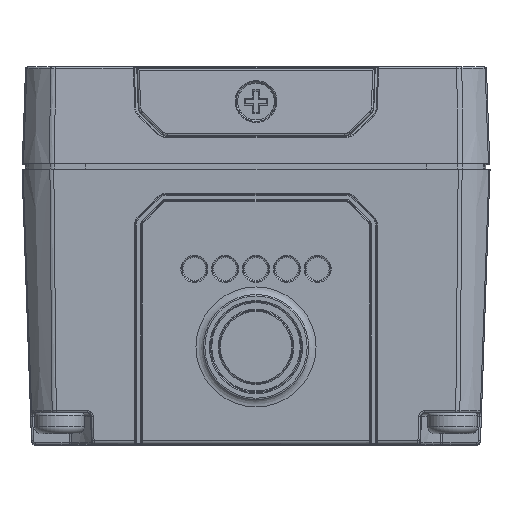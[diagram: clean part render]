
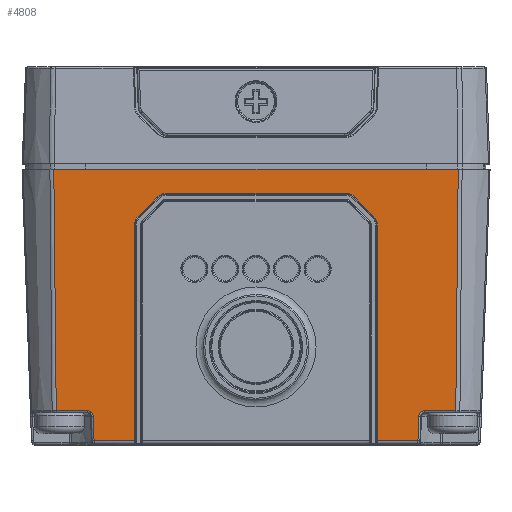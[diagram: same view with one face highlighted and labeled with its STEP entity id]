
A CAD part, top view. The second image highlights one B-rep face of the part: STEP entity #4808.
In plain terms, the highlighted planar face has unit normal (0, -0.035, 0.999).
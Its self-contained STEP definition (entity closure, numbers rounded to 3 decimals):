
#887=ELLIPSE('',#19678,1.301,1.3);
#888=ELLIPSE('',#19679,1.301,1.3);
#889=ELLIPSE('',#19680,1.301,1.3);
#890=ELLIPSE('',#19681,1.301,1.3);
#891=ELLIPSE('',#19682,0.6,0.6);
#892=ELLIPSE('',#19683,0.6,0.6);
#1434=FACE_OUTER_BOUND('',#7227,.T.);
#2535=LINE('',#31598,#3678);
#2536=LINE('',#31601,#3679);
#2537=LINE('',#31605,#3680);
#2538=LINE('',#31609,#3681);
#2539=LINE('',#31613,#3682);
#2540=LINE('',#31617,#3683);
#2541=LINE('',#31619,#3684);
#2542=LINE('',#31621,#3685);
#2543=LINE('',#31625,#3686);
#2544=LINE('',#31638,#3687);
#2545=LINE('',#31651,#3688);
#2546=LINE('',#31655,#3689);
#3678=VECTOR('',#23244,1.);
#3679=VECTOR('',#23245,1.);
#3680=VECTOR('',#23248,1.);
#3681=VECTOR('',#23251,1.);
#3682=VECTOR('',#23254,1.);
#3683=VECTOR('',#23257,1.);
#3684=VECTOR('',#23258,1.);
#3685=VECTOR('',#23259,1.);
#3686=VECTOR('',#23262,1.);
#3687=VECTOR('',#23263,1.);
#3688=VECTOR('',#23264,1.);
#3689=VECTOR('',#23267,1.);
#4808=ADVANCED_FACE('',(#1434),#5663,.F.);
#5663=PLANE('',#19684);
#6062=B_SPLINE_CURVE_WITH_KNOTS('',3,(#31627,#31628,#31629,#31630,#31631,
#31632,#31633,#31634,#31635,#31636),.UNSPECIFIED.,.F.,.F.,(4,3,3,4),(0.,
0.44,0.92,1.),.UNSPECIFIED.);
#6063=B_SPLINE_CURVE_WITH_KNOTS('',3,(#31640,#31641,#31642,#31643,#31644,
#31645,#31646,#31647,#31648,#31649),.UNSPECIFIED.,.F.,.F.,(4,3,3,4),(0.,
0.502,0.564,1.),.UNSPECIFIED.);
#7227=EDGE_LOOP('',(#10328,#10329,#10330,#10331,#10332,#10333,#10334,#10335,
#10336,#10337,#10338,#10339,#10340,#10341,#10342,#10343,#10344,#10345,#10346,
#10347));
#10328=ORIENTED_EDGE('',*,*,#16297,.T.);
#10329=ORIENTED_EDGE('',*,*,#16298,.T.);
#10330=ORIENTED_EDGE('',*,*,#16299,.T.);
#10331=ORIENTED_EDGE('',*,*,#16300,.T.);
#10332=ORIENTED_EDGE('',*,*,#16301,.T.);
#10333=ORIENTED_EDGE('',*,*,#16302,.T.);
#10334=ORIENTED_EDGE('',*,*,#16303,.T.);
#10335=ORIENTED_EDGE('',*,*,#16304,.T.);
#10336=ORIENTED_EDGE('',*,*,#16305,.T.);
#10337=ORIENTED_EDGE('',*,*,#16306,.T.);
#10338=ORIENTED_EDGE('',*,*,#16307,.T.);
#10339=ORIENTED_EDGE('',*,*,#16308,.T.);
#10340=ORIENTED_EDGE('',*,*,#16309,.T.);
#10341=ORIENTED_EDGE('',*,*,#16310,.T.);
#10342=ORIENTED_EDGE('',*,*,#16311,.T.);
#10343=ORIENTED_EDGE('',*,*,#16312,.F.);
#10344=ORIENTED_EDGE('',*,*,#16313,.T.);
#10345=ORIENTED_EDGE('',*,*,#16314,.T.);
#10346=ORIENTED_EDGE('',*,*,#16315,.T.);
#10347=ORIENTED_EDGE('',*,*,#16316,.T.);
#14175=VERTEX_POINT('',#31599);
#14176=VERTEX_POINT('',#31600);
#14177=VERTEX_POINT('',#31602);
#14178=VERTEX_POINT('',#31604);
#14179=VERTEX_POINT('',#31606);
#14180=VERTEX_POINT('',#31608);
#14181=VERTEX_POINT('',#31610);
#14182=VERTEX_POINT('',#31612);
#14183=VERTEX_POINT('',#31614);
#14184=VERTEX_POINT('',#31616);
#14185=VERTEX_POINT('',#31618);
#14186=VERTEX_POINT('',#31620);
#14187=VERTEX_POINT('',#31622);
#14188=VERTEX_POINT('',#31624);
#14189=VERTEX_POINT('',#31626);
#14190=VERTEX_POINT('',#31637);
#14191=VERTEX_POINT('',#31639);
#14192=VERTEX_POINT('',#31650);
#14193=VERTEX_POINT('',#31652);
#14194=VERTEX_POINT('',#31654);
#16297=EDGE_CURVE('',#14175,#14176,#2535,.T.);
#16298=EDGE_CURVE('',#14176,#14177,#2536,.T.);
#16299=EDGE_CURVE('',#14177,#14178,#887,.T.);
#16300=EDGE_CURVE('',#14178,#14179,#2537,.T.);
#16301=EDGE_CURVE('',#14179,#14180,#888,.T.);
#16302=EDGE_CURVE('',#14180,#14181,#2538,.T.);
#16303=EDGE_CURVE('',#14181,#14182,#889,.T.);
#16304=EDGE_CURVE('',#14182,#14183,#2539,.T.);
#16305=EDGE_CURVE('',#14183,#14184,#890,.T.);
#16306=EDGE_CURVE('',#14184,#14185,#2540,.T.);
#16307=EDGE_CURVE('',#14185,#14186,#2541,.T.);
#16308=EDGE_CURVE('',#14186,#14187,#2542,.T.);
#16309=EDGE_CURVE('',#14187,#14188,#891,.T.);
#16310=EDGE_CURVE('',#14188,#14189,#2543,.T.);
#16311=EDGE_CURVE('',#14189,#14190,#6062,.T.);
#16312=EDGE_CURVE('',#14191,#14190,#2544,.T.);
#16313=EDGE_CURVE('',#14191,#14192,#6063,.T.);
#16314=EDGE_CURVE('',#14192,#14193,#2545,.T.);
#16315=EDGE_CURVE('',#14193,#14194,#892,.T.);
#16316=EDGE_CURVE('',#14194,#14175,#2546,.T.);
#19678=AXIS2_PLACEMENT_3D('',#31603,#23246,#23247);
#19679=AXIS2_PLACEMENT_3D('',#31607,#23249,#23250);
#19680=AXIS2_PLACEMENT_3D('',#31611,#23252,#23253);
#19681=AXIS2_PLACEMENT_3D('',#31615,#23255,#23256);
#19682=AXIS2_PLACEMENT_3D('',#31623,#23260,#23261);
#19683=AXIS2_PLACEMENT_3D('',#31653,#23265,#23266);
#19684=AXIS2_PLACEMENT_3D('',#31656,#23268,#23269);
#23244=DIRECTION('',(1.,0.,0.));
#23245=DIRECTION('',(0.,0.999,0.035));
#23246=DIRECTION('',(0.,0.035,-0.999));
#23247=DIRECTION('',(-0.924,0.382,0.013));
#23248=DIRECTION('',(0.707,0.707,0.024));
#23249=DIRECTION('',(0.,0.035,-0.999));
#23250=DIRECTION('',(-0.383,0.923,0.032));
#23251=DIRECTION('',(1.,0.,0.));
#23252=DIRECTION('',(0.,0.035,-0.999));
#23253=DIRECTION('',(0.383,0.923,0.032));
#23254=DIRECTION('',(0.707,-0.707,-0.024));
#23255=DIRECTION('',(0.,0.035,-0.999));
#23256=DIRECTION('',(0.924,0.382,0.013));
#23257=DIRECTION('',(0.,-0.999,-0.035));
#23258=DIRECTION('',(1.,0.,0.));
#23259=DIRECTION('',(0.035,0.999,0.035));
#23260=DIRECTION('',(0.,0.035,-0.999));
#23261=DIRECTION('',(0.,-0.999,-0.035));
#23262=DIRECTION('',(1.,0.,0.));
#23263=DIRECTION('',(1.,0.,0.));
#23264=DIRECTION('',(1.,0.,0.));
#23265=DIRECTION('',(0.,0.035,-0.999));
#23266=DIRECTION('',(0.,0.999,0.035));
#23267=DIRECTION('',(0.035,-0.999,-0.035));
#23268=DIRECTION('',(0.,0.035,-0.999));
#23269=DIRECTION('',(0.,-0.999,-0.035));
#31598=CARTESIAN_POINT('',(45.46,-0.608,62.403));
#31599=CARTESIAN_POINT('',(3.161,-0.608,62.403));
#31600=CARTESIAN_POINT('',(7.216,-0.608,62.403));
#31601=CARTESIAN_POINT('',(7.216,21.036,63.151));
#31602=CARTESIAN_POINT('',(7.216,21.035,63.151));
#31603=CARTESIAN_POINT('',(8.516,21.034,63.151));
#31604=CARTESIAN_POINT('',(7.596,21.953,63.183));
#31605=CARTESIAN_POINT('',(9.566,23.923,63.251));
#31606=CARTESIAN_POINT('',(9.565,23.922,63.251));
#31607=CARTESIAN_POINT('',(10.485,23.002,63.219));
#31608=CARTESIAN_POINT('',(10.484,24.302,63.264));
#31609=CARTESIAN_POINT('',(28.442,24.302,63.264));
#31610=CARTESIAN_POINT('',(28.441,24.302,63.264));
#31611=CARTESIAN_POINT('',(28.44,23.002,63.219));
#31612=CARTESIAN_POINT('',(29.36,23.922,63.251));
#31613=CARTESIAN_POINT('',(31.33,21.952,63.183));
#31614=CARTESIAN_POINT('',(31.329,21.953,63.183));
#31615=CARTESIAN_POINT('',(30.408,21.034,63.151));
#31616=CARTESIAN_POINT('',(31.709,21.035,63.151));
#31617=CARTESIAN_POINT('',(31.709,-0.608,62.403));
#31618=CARTESIAN_POINT('',(31.709,-0.608,62.403));
#31619=CARTESIAN_POINT('',(45.46,-0.608,62.403));
#31620=CARTESIAN_POINT('',(35.764,-0.608,62.403));
#31621=CARTESIAN_POINT('',(35.832,1.341,62.47));
#31622=CARTESIAN_POINT('',(35.849,1.82,62.487));
#31623=CARTESIAN_POINT('',(36.449,1.799,62.486));
#31624=CARTESIAN_POINT('',(36.449,2.399,62.507));
#31625=CARTESIAN_POINT('',(39.567,2.399,62.507));
#31626=CARTESIAN_POINT('',(39.569,2.399,62.507));
#31627=CARTESIAN_POINT('',(39.569,2.399,62.507));
#31628=CARTESIAN_POINT('',(39.606,5.966,62.63));
#31629=CARTESIAN_POINT('',(39.643,9.534,62.754));
#31630=CARTESIAN_POINT('',(39.679,13.101,62.877));
#31631=CARTESIAN_POINT('',(39.718,16.987,63.011));
#31632=CARTESIAN_POINT('',(39.757,20.872,63.146));
#31633=CARTESIAN_POINT('',(39.795,24.758,63.28));
#31634=CARTESIAN_POINT('',(39.801,25.407,63.303));
#31635=CARTESIAN_POINT('',(39.807,26.056,63.325));
#31636=CARTESIAN_POINT('',(39.814,26.706,63.347));
#31637=CARTESIAN_POINT('',(39.814,26.706,63.347));
#31638=CARTESIAN_POINT('',(45.46,26.706,63.347));
#31639=CARTESIAN_POINT('',(-0.889,26.706,63.347));
#31640=CARTESIAN_POINT('',(-0.889,26.706,63.347));
#31641=CARTESIAN_POINT('',(-0.849,22.638,63.207));
#31642=CARTESIAN_POINT('',(-0.809,18.569,63.066));
#31643=CARTESIAN_POINT('',(-0.768,14.501,62.925));
#31644=CARTESIAN_POINT('',(-0.763,13.997,62.908));
#31645=CARTESIAN_POINT('',(-0.758,13.494,62.891));
#31646=CARTESIAN_POINT('',(-0.753,12.99,62.873));
#31647=CARTESIAN_POINT('',(-0.717,9.46,62.751));
#31648=CARTESIAN_POINT('',(-0.681,5.929,62.629));
#31649=CARTESIAN_POINT('',(-0.645,2.399,62.507));
#31650=CARTESIAN_POINT('',(-0.645,2.399,62.507));
#31651=CARTESIAN_POINT('',(2.476,2.399,62.507));
#31652=CARTESIAN_POINT('',(2.476,2.399,62.507));
#31653=CARTESIAN_POINT('',(2.476,1.799,62.486));
#31654=CARTESIAN_POINT('',(3.076,1.82,62.487));
#31655=CARTESIAN_POINT('',(3.156,-0.47,62.408));
#31656=CARTESIAN_POINT('',(45.46,1.006,62.459));
